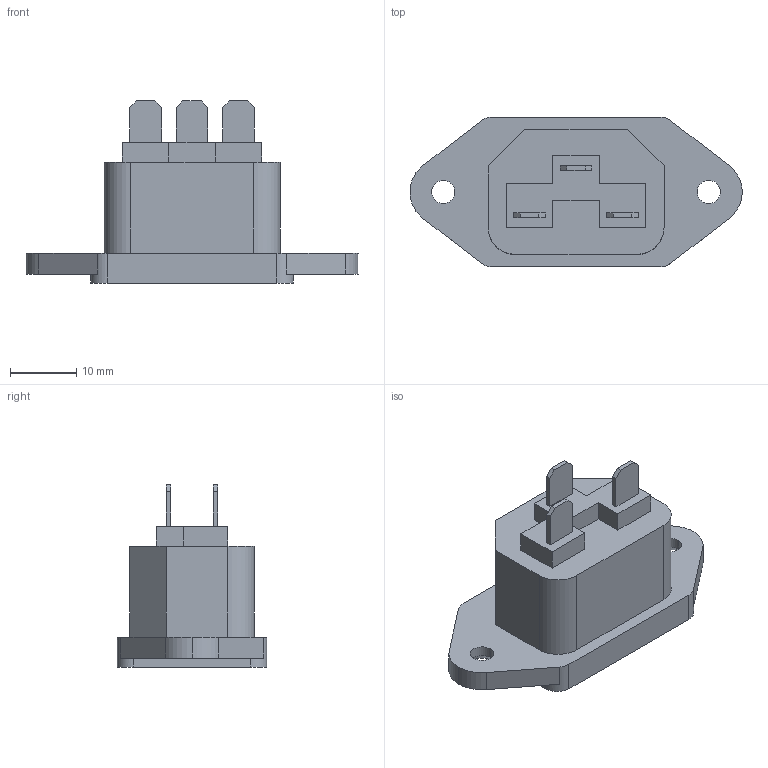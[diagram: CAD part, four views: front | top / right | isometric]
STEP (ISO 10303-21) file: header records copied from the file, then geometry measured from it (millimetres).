
FILE_DESCRIPTION (( 'STEP AP214' ), '1' );
FILE_NAME ('IEC inlet.STEP', '2014-10-27T21:25:32', ( 'user' ), ( 'Microsoft' ), 'SwSTEP 2.0', 'SolidWorks 2013', '' );
FILE_SCHEMA (( 'AUTOMOTIVE_DESIGN' ));
Length unit declared in the file: millimetre
Products named in the file (1): IEC inlet
Bounding box: 49.98 x 22.5 x 27.45 mm (x, y, z)
Volume: 4915.1 mm3; surface area: 5611.7 mm2
Topology: 1 solids, 1 shells, 114 faces, 285 edges, 182 vertices
Faces by surface type: plane 87, cylinder 21, cone 4, torus 2
Entity records: 3845 total; most frequent: CARTESIAN_POINT 594, ORIENTED_EDGE 570, DIRECTION 555, EDGE_CURVE 285, LINE 237, VECTOR 237, VERTEX_POINT 182, AXIS2_PLACEMENT_3D 159
